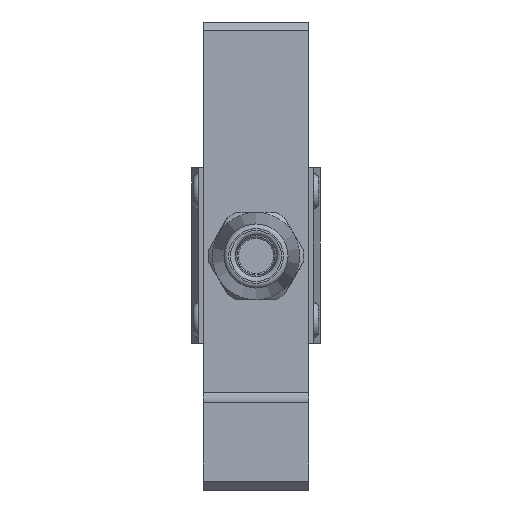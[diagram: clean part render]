
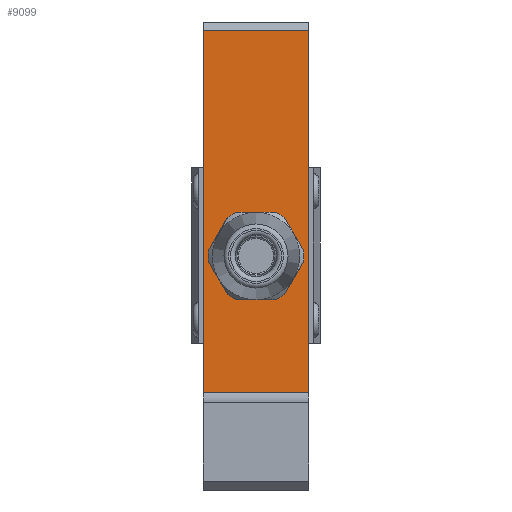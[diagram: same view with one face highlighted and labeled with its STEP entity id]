
A CAD part, left-side view. The second image highlights one B-rep face of the part: STEP entity #9099.
In plain terms, the highlighted planar face has unit normal (-1, 0, 0).
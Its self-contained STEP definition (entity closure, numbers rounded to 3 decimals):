
#287=FACE_BOUND('',#1283,.T.);
#369=PLANE('',#9729);
#764=FACE_OUTER_BOUND('',#1282,.T.);
#1282=EDGE_LOOP('',(#6759,#6760,#6761,#6762));
#1283=EDGE_LOOP('',(#6763,#6764,#6765,#6766,#6767,#6768,#6769,#6770,#6771,
#6772,#6773,#6774));
#1784=LINE('',#14998,#2736);
#1796=LINE('',#15030,#2748);
#1812=LINE('',#15287,#2764);
#1871=LINE('',#15583,#2823);
#1872=LINE('',#15587,#2824);
#1873=LINE('',#15591,#2825);
#1874=LINE('',#15595,#2826);
#1875=LINE('',#15599,#2827);
#1876=LINE('',#15603,#2828);
#1877=LINE('',#15607,#2829);
#2736=VECTOR('',#10554,10.);
#2748=VECTOR('',#10580,10.);
#2764=VECTOR('',#10606,10.);
#2823=VECTOR('',#10909,10.);
#2824=VECTOR('',#10912,10.);
#2825=VECTOR('',#10915,10.);
#2826=VECTOR('',#10918,10.);
#2827=VECTOR('',#10921,10.);
#2828=VECTOR('',#10924,10.);
#2829=VECTOR('',#10927,10.);
#3736=CIRCLE('',#9730,8.2);
#3737=CIRCLE('',#9731,8.2);
#3738=CIRCLE('',#9732,8.2);
#3739=CIRCLE('',#9733,8.2);
#3740=CIRCLE('',#9734,8.2);
#3741=CIRCLE('',#9735,8.2);
#4074=VERTEX_POINT('',#14995);
#4075=VERTEX_POINT('',#14997);
#4087=VERTEX_POINT('',#15027);
#4088=VERTEX_POINT('',#15029);
#4195=VERTEX_POINT('',#15585);
#4196=VERTEX_POINT('',#15586);
#4197=VERTEX_POINT('',#15588);
#4198=VERTEX_POINT('',#15590);
#4199=VERTEX_POINT('',#15592);
#4200=VERTEX_POINT('',#15594);
#4201=VERTEX_POINT('',#15596);
#4202=VERTEX_POINT('',#15598);
#4203=VERTEX_POINT('',#15600);
#4204=VERTEX_POINT('',#15602);
#4205=VERTEX_POINT('',#15604);
#4206=VERTEX_POINT('',#15606);
#5024=EDGE_CURVE('',#4074,#4075,#1784,.T.);
#5040=EDGE_CURVE('',#4087,#4088,#1796,.T.);
#5060=EDGE_CURVE('',#4088,#4074,#1812,.T.);
#5197=EDGE_CURVE('',#4075,#4087,#1871,.T.);
#5198=EDGE_CURVE('',#4195,#4196,#1872,.T.);
#5199=EDGE_CURVE('',#4196,#4197,#3736,.T.);
#5200=EDGE_CURVE('',#4197,#4198,#1873,.T.);
#5201=EDGE_CURVE('',#4198,#4199,#3737,.T.);
#5202=EDGE_CURVE('',#4199,#4200,#1874,.T.);
#5203=EDGE_CURVE('',#4200,#4201,#3738,.T.);
#5204=EDGE_CURVE('',#4201,#4202,#1875,.T.);
#5205=EDGE_CURVE('',#4202,#4203,#3739,.T.);
#5206=EDGE_CURVE('',#4203,#4204,#1876,.T.);
#5207=EDGE_CURVE('',#4204,#4205,#3740,.T.);
#5208=EDGE_CURVE('',#4205,#4206,#1877,.T.);
#5209=EDGE_CURVE('',#4206,#4195,#3741,.T.);
#6759=ORIENTED_EDGE('',*,*,#5060,.F.);
#6760=ORIENTED_EDGE('',*,*,#5040,.F.);
#6761=ORIENTED_EDGE('',*,*,#5197,.F.);
#6762=ORIENTED_EDGE('',*,*,#5024,.F.);
#6763=ORIENTED_EDGE('',*,*,#5198,.T.);
#6764=ORIENTED_EDGE('',*,*,#5199,.T.);
#6765=ORIENTED_EDGE('',*,*,#5200,.T.);
#6766=ORIENTED_EDGE('',*,*,#5201,.T.);
#6767=ORIENTED_EDGE('',*,*,#5202,.T.);
#6768=ORIENTED_EDGE('',*,*,#5203,.T.);
#6769=ORIENTED_EDGE('',*,*,#5204,.T.);
#6770=ORIENTED_EDGE('',*,*,#5205,.T.);
#6771=ORIENTED_EDGE('',*,*,#5206,.T.);
#6772=ORIENTED_EDGE('',*,*,#5207,.T.);
#6773=ORIENTED_EDGE('',*,*,#5208,.T.);
#6774=ORIENTED_EDGE('',*,*,#5209,.T.);
#9099=ADVANCED_FACE('',(#764,#287),#369,.T.);
#9729=AXIS2_PLACEMENT_3D('',#15584,#10910,#10911);
#9730=AXIS2_PLACEMENT_3D('',#15589,#10913,#10914);
#9731=AXIS2_PLACEMENT_3D('',#15593,#10916,#10917);
#9732=AXIS2_PLACEMENT_3D('',#15597,#10919,#10920);
#9733=AXIS2_PLACEMENT_3D('',#15601,#10922,#10923);
#9734=AXIS2_PLACEMENT_3D('',#15605,#10925,#10926);
#9735=AXIS2_PLACEMENT_3D('',#15608,#10928,#10929);
#10554=DIRECTION('',(0.,0.,-1.));
#10580=DIRECTION('',(0.,0.,1.));
#10606=DIRECTION('',(0.,-1.,0.));
#10909=DIRECTION('',(0.,1.,0.));
#10910=DIRECTION('center_axis',(-1.,0.,0.));
#10911=DIRECTION('ref_axis',(0.,0.,1.));
#10912=DIRECTION('',(0.,-0.5,0.866));
#10913=DIRECTION('center_axis',(1.,0.,0.));
#10914=DIRECTION('ref_axis',(0.,0.,-1.));
#10915=DIRECTION('',(0.,-1.,0.));
#10916=DIRECTION('center_axis',(1.,0.,0.));
#10917=DIRECTION('ref_axis',(0.,0.,-1.));
#10918=DIRECTION('',(0.,-0.5,-0.866));
#10919=DIRECTION('center_axis',(1.,0.,0.));
#10920=DIRECTION('ref_axis',(0.,0.,-1.));
#10921=DIRECTION('',(0.,0.5,-0.866));
#10922=DIRECTION('center_axis',(1.,0.,0.));
#10923=DIRECTION('ref_axis',(0.,0.,-1.));
#10924=DIRECTION('',(0.,1.,0.));
#10925=DIRECTION('center_axis',(1.,0.,0.));
#10926=DIRECTION('ref_axis',(0.,0.,-1.));
#10927=DIRECTION('',(0.,0.5,0.866));
#10928=DIRECTION('center_axis',(1.,0.,0.));
#10929=DIRECTION('ref_axis',(0.,0.,-1.));
#14995=CARTESIAN_POINT('',(0.,0.,78.5));
#14997=CARTESIAN_POINT('',(0.,0.,16.7));
#14998=CARTESIAN_POINT('',(0.,0.,80.));
#15027=CARTESIAN_POINT('',(0.,18.,16.7));
#15029=CARTESIAN_POINT('',(0.,18.,78.5));
#15030=CARTESIAN_POINT('',(0.,18.,80.));
#15287=CARTESIAN_POINT('',(0.,0.,78.5));
#15583=CARTESIAN_POINT('',(0.,0.,16.7));
#15584=CARTESIAN_POINT('Origin',(0.,0.,16.7));
#15585=CARTESIAN_POINT('',(0.,17.153,40.879));
#15586=CARTESIAN_POINT('',(0.,13.838,46.621));
#15587=CARTESIAN_POINT('',(0.,18.332,38.836));
#15588=CARTESIAN_POINT('',(0.,12.315,47.5));
#15589=CARTESIAN_POINT('Origin',(0.,9.,40.));
#15590=CARTESIAN_POINT('',(0.,5.685,47.5));
#15591=CARTESIAN_POINT('',(0.,2.335,47.5));
#15592=CARTESIAN_POINT('',(0.,4.162,46.621));
#15593=CARTESIAN_POINT('Origin',(0.,9.,40.));
#15594=CARTESIAN_POINT('',(0.,0.847,40.879));
#15595=CARTESIAN_POINT('',(0.,-4.747,31.189));
#15596=CARTESIAN_POINT('',(0.,0.847,39.121));
#15597=CARTESIAN_POINT('Origin',(0.,9.,40.));
#15598=CARTESIAN_POINT('',(0.,4.162,33.379));
#15599=CARTESIAN_POINT('',(0.,7.507,27.586));
#15600=CARTESIAN_POINT('',(0.,5.685,32.5));
#15601=CARTESIAN_POINT('Origin',(0.,9.,40.));
#15602=CARTESIAN_POINT('',(0.,12.315,32.5));
#15603=CARTESIAN_POINT('',(0.,6.665,32.5));
#15604=CARTESIAN_POINT('',(0.,13.838,33.379));
#15605=CARTESIAN_POINT('Origin',(0.,9.,40.));
#15606=CARTESIAN_POINT('',(0.,17.153,39.121));
#15607=CARTESIAN_POINT('',(0.,10.408,27.439));
#15608=CARTESIAN_POINT('Origin',(0.,9.,40.));
